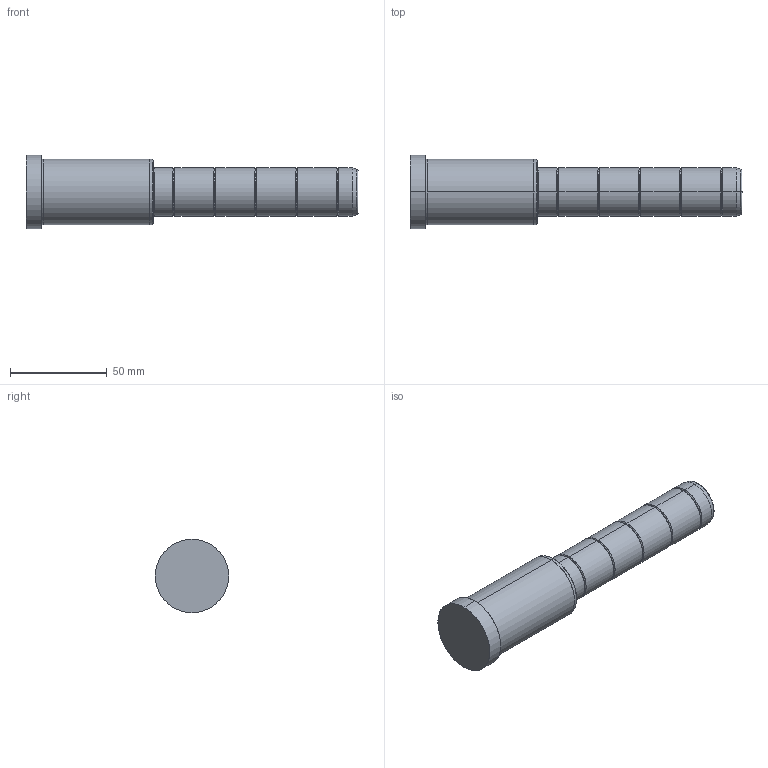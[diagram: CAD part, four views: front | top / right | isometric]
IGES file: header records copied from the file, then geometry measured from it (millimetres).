
Start section: SolidWorks IGES file using analytic representation for surfaces
Global section: file name: C:\Documents and Settings\kalite-mail\Desktop\IGS\D02\25\D02 - 25x66x106.IGS; native system: SolidWorks 2008; preprocessor: SolidWorks 2008; author: kalite-mail; date: 080616.174338; units: millimetre
Bounding box: 172 x 38 x 38 mm (x, y, z)
Surface area: 17831.9 mm2 (no closed solid volume)
Topology: 0 solids, 0 shells, 54 faces, 768 edges, 768 vertices
Faces by surface type: bspline 30, revolution 24
